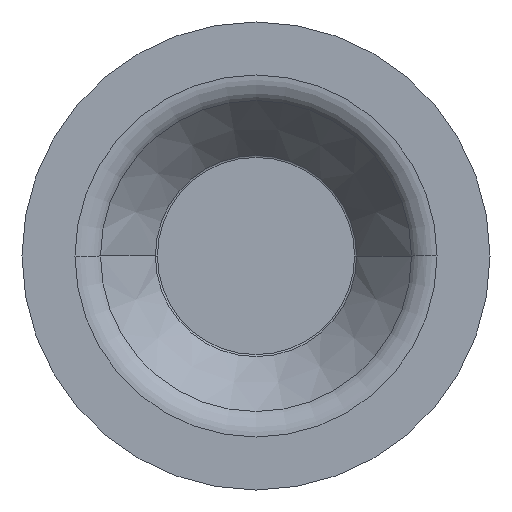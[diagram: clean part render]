
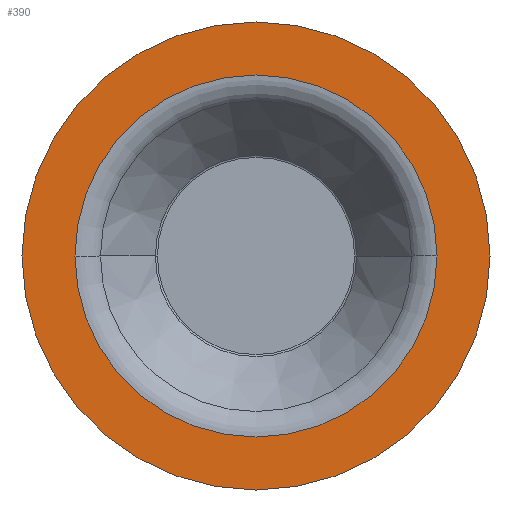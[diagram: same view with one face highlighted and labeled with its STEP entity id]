
A CAD part, front view. The second image highlights one B-rep face of the part: STEP entity #390.
In plain terms, the highlighted planar face has unit normal (0, -1, 0).
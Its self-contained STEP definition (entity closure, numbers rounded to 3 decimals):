
#72 = CIRCLE ( 'NONE', #1485, 36.744 ) ;
#109 = DIRECTION ( 'NONE',  ( -1., 0., 0. ) ) ;
#125 = VERTEX_POINT ( 'NONE', #350 ) ;
#160 = AXIS2_PLACEMENT_3D ( 'NONE', #187, #319, #1069 ) ;
#187 = CARTESIAN_POINT ( 'NONE',  ( 0., -22., 0. ) ) ;
#191 = EDGE_CURVE ( 'NONE', #125, #458, #229, .T. ) ;
#229 = CIRCLE ( 'NONE', #495, 47.5 ) ;
#243 = ORIENTED_EDGE ( 'NONE', *, *, #896, .F. ) ;
#255 = ORIENTED_EDGE ( 'NONE', *, *, #1157, .T. ) ;
#315 = FACE_BOUND ( 'NONE', #1561, .T. ) ;
#319 = DIRECTION ( 'NONE',  ( 0., -1., 0. ) ) ;
#324 = CIRCLE ( 'NONE', #160, 47.5 ) ;
#350 = CARTESIAN_POINT ( 'NONE',  ( -47.5, -22., 0. ) ) ;
#374 = CARTESIAN_POINT ( 'NONE',  ( 0., -22., 0. ) ) ;
#390 = ADVANCED_FACE ( 'NONE', ( #315, #1597 ), #1100, .T. ) ;
#455 = DIRECTION ( 'NONE',  ( 1., 0., 0. ) ) ;
#458 = VERTEX_POINT ( 'NONE', #1284 ) ;
#495 = AXIS2_PLACEMENT_3D ( 'NONE', #997, #872, #736 ) ;
#570 = AXIS2_PLACEMENT_3D ( 'NONE', #1458, #1227, #455 ) ;
#600 = CIRCLE ( 'NONE', #807, 36.744 ) ;
#629 = CARTESIAN_POINT ( 'NONE',  ( -36.744, -22., 0. ) ) ;
#736 = DIRECTION ( 'NONE',  ( 1., 0., 0. ) ) ;
#750 = DIRECTION ( 'NONE',  ( -1., 0., 0. ) ) ;
#807 = AXIS2_PLACEMENT_3D ( 'NONE', #1273, #1268, #109 ) ;
#872 = DIRECTION ( 'NONE',  ( 0., -1., 0. ) ) ;
#874 = EDGE_CURVE ( 'NONE', #1295, #886, #72, .T. ) ;
#886 = VERTEX_POINT ( 'NONE', #1630 ) ;
#896 = EDGE_CURVE ( 'NONE', #886, #1295, #600, .T. ) ;
#997 = CARTESIAN_POINT ( 'NONE',  ( 0., -22., 0. ) ) ;
#998 = DIRECTION ( 'NONE',  ( 0., -1., 0. ) ) ;
#1047 = ORIENTED_EDGE ( 'NONE', *, *, #874, .F. ) ;
#1069 = DIRECTION ( 'NONE',  ( 1., 0., 0. ) ) ;
#1100 = PLANE ( 'NONE',  #570 ) ;
#1157 = EDGE_CURVE ( 'NONE', #458, #125, #324, .T. ) ;
#1227 = DIRECTION ( 'NONE',  ( 0., -1., 0. ) ) ;
#1268 = DIRECTION ( 'NONE',  ( 0., -1., 0. ) ) ;
#1273 = CARTESIAN_POINT ( 'NONE',  ( 0., -22., 0. ) ) ;
#1284 = CARTESIAN_POINT ( 'NONE',  ( 47.5, -22., 0. ) ) ;
#1295 = VERTEX_POINT ( 'NONE', #629 ) ;
#1436 = EDGE_LOOP ( 'NONE', ( #255, #1495 ) ) ;
#1458 = CARTESIAN_POINT ( 'NONE',  ( 47.5, -22., 0. ) ) ;
#1485 = AXIS2_PLACEMENT_3D ( 'NONE', #374, #998, #750 ) ;
#1495 = ORIENTED_EDGE ( 'NONE', *, *, #191, .T. ) ;
#1561 = EDGE_LOOP ( 'NONE', ( #1047, #243 ) ) ;
#1597 = FACE_OUTER_BOUND ( 'NONE', #1436, .T. ) ;
#1630 = CARTESIAN_POINT ( 'NONE',  ( 36.744, -22., 0. ) ) ;
